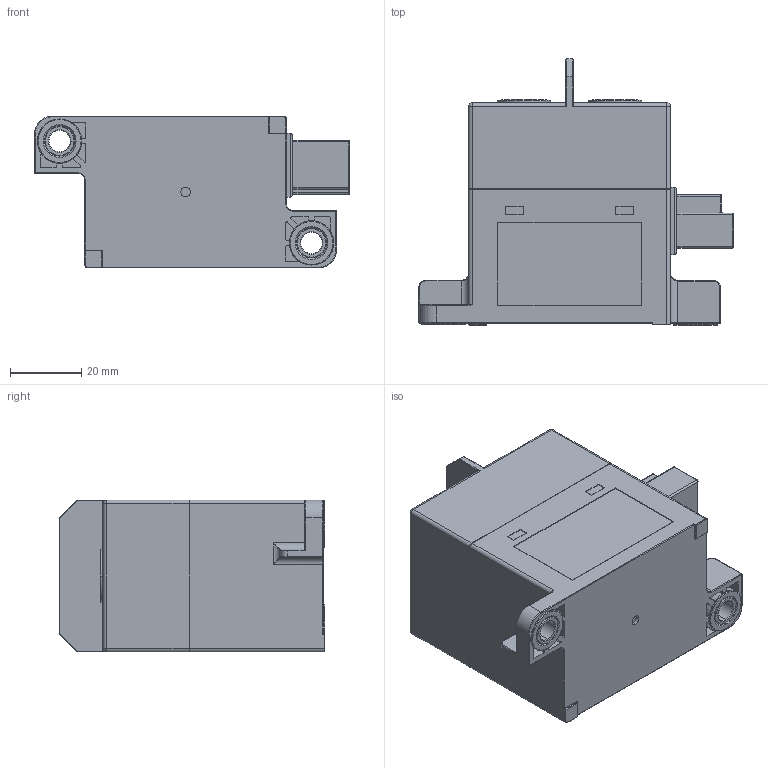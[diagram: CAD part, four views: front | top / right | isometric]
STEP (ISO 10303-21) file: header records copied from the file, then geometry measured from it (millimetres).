
FILE_DESCRIPTION (( 'STEP AP203' ), '1' );
FILE_NAME ('2LD.410.0030.STEP', '2026-03-23T05:16:35', ( '' ), ( '' ), 'SwSTEP 2.0', 'SolidWorks 2018', '' );
FILE_SCHEMA (( 'CONFIG_CONTROL_DESIGN' ));
Length unit declared in the file: millimetre
Products named in the file (1): 2LD.410.0030
Bounding box: 88.1 x 74.42 x 42.5 mm (x, y, z)
Volume: 152374.7 mm3; surface area: 23146.1 mm2
Topology: 3 solids, 4 shells, 578 faces, 1407 edges, 835 vertices
Faces by surface type: cylinder 250, plane 227, torus 71, cone 14, bspline 10, sphere 6
Entity records: 16910 total; most frequent: CARTESIAN_POINT 3441, DIRECTION 2873, ORIENTED_EDGE 2782, EDGE_CURVE 1391, AXIS2_PLACEMENT_3D 1027, VERTEX_POINT 835, VECTOR 819, LINE 819
